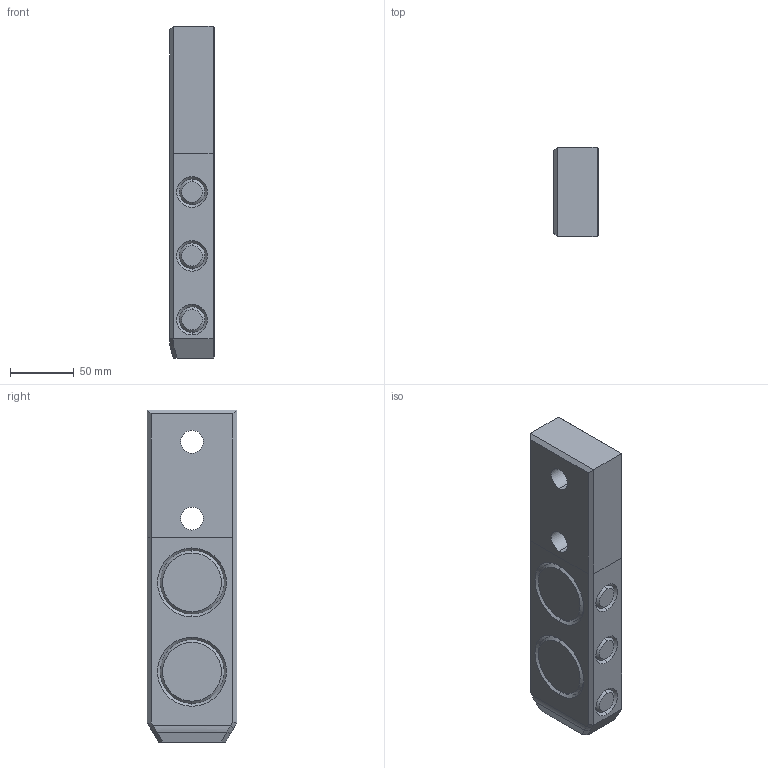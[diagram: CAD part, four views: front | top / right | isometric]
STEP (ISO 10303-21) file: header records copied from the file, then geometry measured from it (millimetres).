
FILE_DESCRIPTION((''),'2;1');
FILE_NAME('','2010-08-30T19:10:28+09:00',('misumi'),(''),'M/STEP i/f 1R2-14','CADmeister v5.1','');
FILE_SCHEMA(('AUTOMOTIVE_DESIGN'));
Length unit declared in the file: millimetre
Products named in the file (1): OGZ70-260
Bounding box: 35 x 70 x 260 mm (x, y, z)
Volume: 598202.1 mm3; surface area: 62187.5 mm2
Topology: 1 solids, 1 shells, 79 faces, 170 edges, 103 vertices
Faces by surface type: plane 33, cone 32, cylinder 9, bspline 5
Entity records: 3822 total; most frequent: CARTESIAN_POINT 1328, ORIENTED_EDGE 340, DIRECTION 339, COLOUR_RGB 181, CURVE_STYLE 176, PRESENTATION_STYLE_ASSIGNMENT 175, OVER_RIDING_STYLED_ITEM 174, EDGE_CURVE 170
